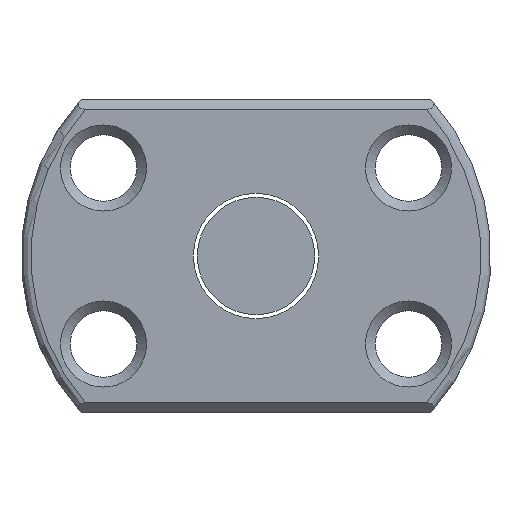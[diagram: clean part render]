
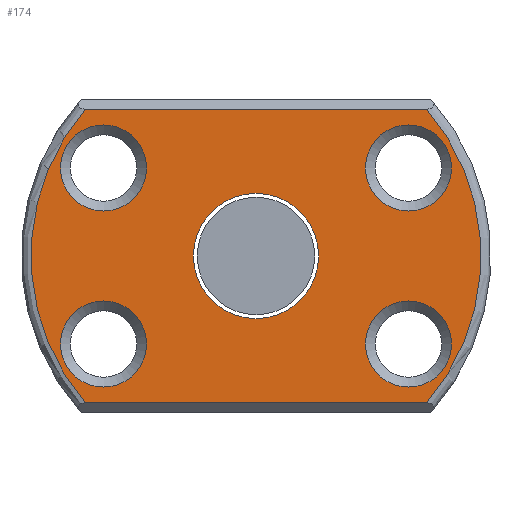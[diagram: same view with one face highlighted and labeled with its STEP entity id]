
A CAD part, left-side view. The second image highlights one B-rep face of the part: STEP entity #174.
In plain terms, the highlighted planar face has unit normal (-1, 0, 0).
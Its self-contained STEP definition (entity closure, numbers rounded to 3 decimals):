
#5 = EDGE_CURVE ( 'NONE', #712, #712, #781, .T. ) ;
#7 = DIRECTION ( 'NONE',  ( 0., -1., 0. ) ) ;
#8 = ORIENTED_EDGE ( 'NONE', *, *, #628, .T. ) ;
#21 = CIRCLE ( 'NONE', #630, 2.2 ) ;
#24 = DIRECTION ( 'NONE',  ( 0., -1., 0. ) ) ;
#55 = EDGE_LOOP ( 'NONE', ( #8 ) ) ;
#73 = CARTESIAN_POINT ( 'NONE',  ( -15., -8.718, -7.5 ) ) ;
#76 = PLANE ( 'NONE',  #501 ) ;
#78 = DIRECTION ( 'NONE',  ( 1., 0., 0. ) ) ;
#92 = VERTEX_POINT ( 'NONE', #303 ) ;
#115 = VERTEX_POINT ( 'NONE', #668 ) ;
#121 = ORIENTED_EDGE ( 'NONE', *, *, #602, .T. ) ;
#126 = AXIS2_PLACEMENT_3D ( 'NONE', #428, #359, #637 ) ;
#130 = AXIS2_PLACEMENT_3D ( 'NONE', #429, #874, #210 ) ;
#139 = FACE_BOUND ( 'NONE', #55, .T. ) ;
#145 = VERTEX_POINT ( 'NONE', #669 ) ;
#156 = CARTESIAN_POINT ( 'NONE',  ( -15., 12., 0. ) ) ;
#165 = ORIENTED_EDGE ( 'NONE', *, *, #650, .T. ) ;
#166 = DIRECTION ( 'NONE',  ( -1., 0., 0. ) ) ;
#174 = ADVANCED_FACE ( 'NONE', ( #661, #511, #139, #435, #727, #591 ), #76, .T. ) ;
#184 = CIRCLE ( 'NONE', #126, 2.2 ) ;
#204 = CIRCLE ( 'NONE', #819, 11.5 ) ;
#205 = AXIS2_PLACEMENT_3D ( 'NONE', #393, #366, #373 ) ;
#210 = DIRECTION ( 'NONE',  ( 0., 1., 0. ) ) ;
#211 = EDGE_LOOP ( 'NONE', ( #347 ) ) ;
#215 = EDGE_LOOP ( 'NONE', ( #121 ) ) ;
#216 = VERTEX_POINT ( 'NONE', #804 ) ;
#233 = CARTESIAN_POINT ( 'NONE',  ( -15., 12., 7.5 ) ) ;
#252 = EDGE_CURVE ( 'NONE', #418, #115, #673, .T. ) ;
#259 = LINE ( 'NONE', #744, #274 ) ;
#265 = ORIENTED_EDGE ( 'NONE', *, *, #839, .T. ) ;
#274 = VECTOR ( 'NONE', #536, 1000. ) ;
#303 = CARTESIAN_POINT ( 'NONE',  ( -15., 5.594, 4.5 ) ) ;
#314 = VERTEX_POINT ( 'NONE', #389 ) ;
#347 = ORIENTED_EDGE ( 'NONE', *, *, #553, .T. ) ;
#351 = AXIS2_PLACEMENT_3D ( 'NONE', #852, #647, #856 ) ;
#352 = EDGE_CURVE ( 'NONE', #216, #585, #259, .T. ) ;
#356 = ORIENTED_EDGE ( 'NONE', *, *, #352, .T. ) ;
#359 = DIRECTION ( 'NONE',  ( 1., 0., 0. ) ) ;
#366 = DIRECTION ( 'NONE',  ( 1., 0., 0. ) ) ;
#372 = EDGE_CURVE ( 'NONE', #585, #418, #204, .T. ) ;
#373 = DIRECTION ( 'NONE',  ( 0., -1., 0. ) ) ;
#389 = CARTESIAN_POINT ( 'NONE',  ( -15., 3.2, 0. ) ) ;
#393 = CARTESIAN_POINT ( 'NONE',  ( -15., -7.794, 4.5 ) ) ;
#418 = VERTEX_POINT ( 'NONE', #767 ) ;
#428 = CARTESIAN_POINT ( 'NONE',  ( -15., 7.794, -4.5 ) ) ;
#429 = CARTESIAN_POINT ( 'NONE',  ( -15., 0., 0. ) ) ;
#435 = FACE_BOUND ( 'NONE', #211, .T. ) ;
#442 = CARTESIAN_POINT ( 'NONE',  ( -15., 5.594, -4.5 ) ) ;
#448 = EDGE_LOOP ( 'NONE', ( #618 ) ) ;
#501 = AXIS2_PLACEMENT_3D ( 'NONE', #156, #799, #24 ) ;
#511 = FACE_BOUND ( 'NONE', #448, .T. ) ;
#536 = DIRECTION ( 'NONE',  ( 0., -1., 0. ) ) ;
#553 = EDGE_CURVE ( 'NONE', #92, #92, #21, .T. ) ;
#554 = CIRCLE ( 'NONE', #130, 3.2 ) ;
#585 = VERTEX_POINT ( 'NONE', #73 ) ;
#591 = FACE_OUTER_BOUND ( 'NONE', #654, .T. ) ;
#602 = EDGE_CURVE ( 'NONE', #314, #314, #554, .T. ) ;
#608 = DIRECTION ( 'NONE',  ( 0., -1., 0. ) ) ;
#618 = ORIENTED_EDGE ( 'NONE', *, *, #5, .T. ) ;
#628 = EDGE_CURVE ( 'NONE', #145, #145, #784, .T. ) ;
#630 = AXIS2_PLACEMENT_3D ( 'NONE', #745, #78, #868 ) ;
#637 = DIRECTION ( 'NONE',  ( 0., -1., 0. ) ) ;
#647 = DIRECTION ( 'NONE',  ( 1., 0., 0. ) ) ;
#650 = EDGE_CURVE ( 'NONE', #115, #216, #743, .T. ) ;
#654 = EDGE_LOOP ( 'NONE', ( #356, #731, #913, #165 ) ) ;
#661 = FACE_BOUND ( 'NONE', #675, .T. ) ;
#668 = CARTESIAN_POINT ( 'NONE',  ( -15., 8.718, 7.5 ) ) ;
#669 = CARTESIAN_POINT ( 'NONE',  ( -15., -9.994, 4.5 ) ) ;
#673 = LINE ( 'NONE', #233, #911 ) ;
#675 = EDGE_LOOP ( 'NONE', ( #265 ) ) ;
#712 = VERTEX_POINT ( 'NONE', #728 ) ;
#727 = FACE_BOUND ( 'NONE', #215, .T. ) ;
#728 = CARTESIAN_POINT ( 'NONE',  ( -15., -9.994, -4.5 ) ) ;
#731 = ORIENTED_EDGE ( 'NONE', *, *, #372, .T. ) ;
#740 = DIRECTION ( 'NONE',  ( 0., 1., 0. ) ) ;
#743 = CIRCLE ( 'NONE', #861, 11.5 ) ;
#744 = CARTESIAN_POINT ( 'NONE',  ( -15., 12., -7.5 ) ) ;
#745 = CARTESIAN_POINT ( 'NONE',  ( -15., 7.794, 4.5 ) ) ;
#767 = CARTESIAN_POINT ( 'NONE',  ( -15., -8.718, 7.5 ) ) ;
#781 = CIRCLE ( 'NONE', #351, 2.2 ) ;
#784 = CIRCLE ( 'NONE', #205, 2.2 ) ;
#797 = CARTESIAN_POINT ( 'NONE',  ( -15., 0., 0. ) ) ;
#799 = DIRECTION ( 'NONE',  ( -1., 0., 0. ) ) ;
#804 = CARTESIAN_POINT ( 'NONE',  ( -15., 8.718, -7.5 ) ) ;
#819 = AXIS2_PLACEMENT_3D ( 'NONE', #824, #832, #608 ) ;
#824 = CARTESIAN_POINT ( 'NONE',  ( -15., 0., 0. ) ) ;
#832 = DIRECTION ( 'NONE',  ( -1., 0., 0. ) ) ;
#839 = EDGE_CURVE ( 'NONE', #878, #878, #184, .T. ) ;
#852 = CARTESIAN_POINT ( 'NONE',  ( -15., -7.794, -4.5 ) ) ;
#856 = DIRECTION ( 'NONE',  ( 0., -1., 0. ) ) ;
#861 = AXIS2_PLACEMENT_3D ( 'NONE', #797, #166, #7 ) ;
#868 = DIRECTION ( 'NONE',  ( 0., -1., 0. ) ) ;
#874 = DIRECTION ( 'NONE',  ( 1., 0., 0. ) ) ;
#878 = VERTEX_POINT ( 'NONE', #442 ) ;
#911 = VECTOR ( 'NONE', #740, 1000. ) ;
#913 = ORIENTED_EDGE ( 'NONE', *, *, #252, .T. ) ;
